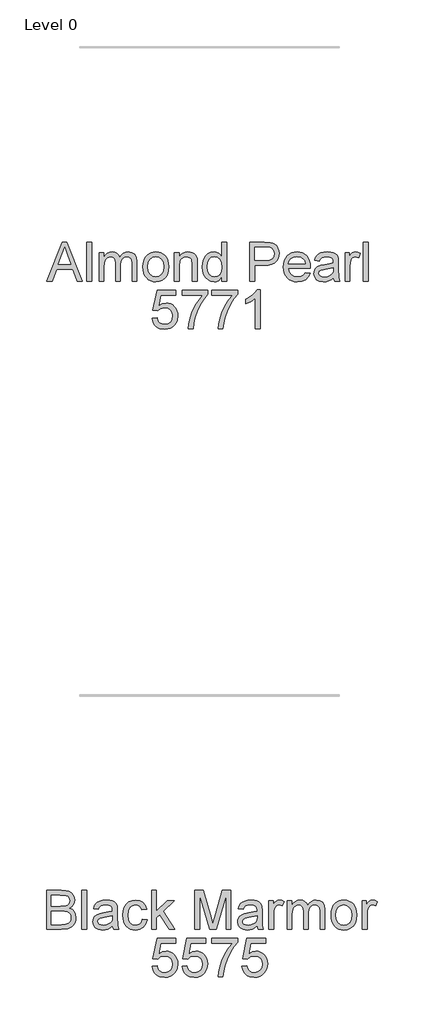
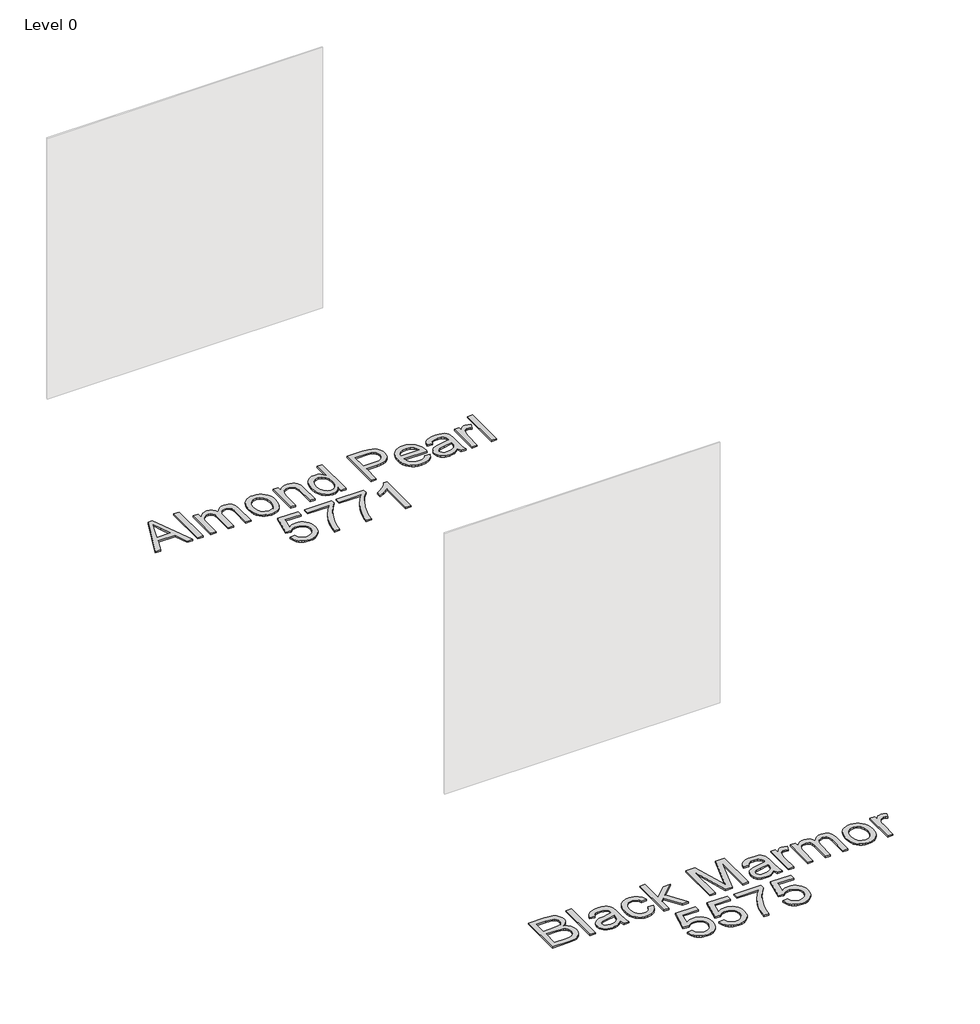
# One storey, part 5 of 8: 2 proxies.
"""IFC4 building model written with IfcOpenShell, lengths in millimetres."""

from ifc_helpers import new_model, si_unit, origin, origin_with_axes, place, context, project, spatial, polyline, outline, extrude, element, save

model = new_model("IFC4")

# Units and contexts
model_context = context("Model", 3, world=origin())
ifc_project = project(units=[si_unit("LENGTHUNIT", "METRE", prefix="MILLI")], contexts=[model_context])

# Site, building, storey
site = spatial("IfcSite", under=ifc_project)
building = spatial("IfcBuilding", under=site)
storey = spatial("IfcBuildingStorey", under=building, Name="Level 0", Elevation=0.0)

# Proxies
placement = place(None, origin())
element("IfcBuildingElementProxy", 1, Name="300mm Arial", ObjectType="300mm Arial", at=placement, inside=storey, context=model_context, shape_type="SweptSolid", body=[
    extrude(outline(polyline([(-705.3563891, -12002.860494), (-585.0589766, -11701.4915635), (-552.9796667, -11701.4915635), (-432.6822542, -12002.860494), (-472.4870861, -12002.860494), (-506.9944173, -11908.6827032), (-631.1178024, -11908.6827032), (-665.5515572, -12002.860494), (-705.3563891, -12002.860494)]), holes=[polyline([(-617.2854394, -11871.0115869), (-520.7532039, -11871.0115869), (-547.9028951, -11796.9201531), (-569.0193216, -11739.1626798), (-587.7813034, -11790.44543), (-617.2854394, -11871.0115869)])]), origin_with_axes(), (0.0, 0.0, 1.0), 10.0),
    extrude(outline(polyline([(-397.1448535, -12002.860494), (-397.1448535, -11701.4915635), (-359.4737372, -11701.4915635), (-359.4737372, -12002.860494), (-397.1448535, -12002.860494)])), origin_with_axes(), (0.0, 0.0, 1.0), 10.0),
    extrude(outline(polyline([(-302.9670627, -12002.860494), (-302.9670627, -11781.5426857), (-265.2959464, -11781.5426857), (-265.2959464, -11817.9630032), (-253.965181, -11801.2335695), (-239.397054, -11788.1277734), (-222.0882061, -11779.6572905), (-202.535278, -11776.8337961), (-181.5843984, -11779.7124728), (-164.7905853, -11788.3485026), (-152.2458093, -11802.1716686), (-144.0420408, -11820.6117536), (-130.3108453, -11801.4588972), (-114.6482694, -11787.7782855), (-97.054313, -11779.5699185), (-77.5289761, -11776.8337961), (-49.2112595, -11781.3863358), (-28.2695769, -11795.0439549), (-15.3293278, -11818.1745354), (-11.0159114, -11851.1459592), (-11.0159114, -12002.860494), (-48.6870277, -12002.860494), (-48.6870277, -11867.332767), (-52.1819066, -11835.8788564), (-57.0931313, -11827.2060383), (-64.8370473, -11820.3910244), (-74.7974523, -11815.9764404), (-86.358144, -11814.5049125), (-106.7663977, -11818.2757029), (-123.4038609, -11829.5880743), (-134.4679119, -11849.2145787), (-138.1559289, -11877.9277684), (-138.1559289, -12002.860494), (-175.8270452, -12002.860494), (-175.8270452, -11863.1389122), (-178.006746, -11841.8385447), (-184.5458485, -11826.6450183), (-196.0513579, -11817.5399389), (-213.1302795, -11814.5049125), (-227.6432242, -11816.5282634), (-241.0157347, -11822.5983163), (-252.0521946, -11832.5679184), (-259.5569873, -11846.2899168), (-263.8612066, -11865.3278101), (-265.2959464, -11891.2450966), (-265.2959464, -12002.860494), (-302.9670627, -12002.860494)])), origin_with_axes(), (0.0, 0.0, 1.0), 10.0),
    extrude(outline(polyline([(36.072984, -11892.2015898), (38.1101306, -11863.5389839), (44.2215702, -11838.8403064), (54.407303, -11818.1055575), (68.6673288, -11801.334737), (83.0239237, -11790.6155754), (98.8704406, -11782.9590314), (116.2068796, -11778.3651049), (135.0332407, -11776.8337961), (155.8162742, -11778.698498), (174.6081464, -11784.2926036), (191.4088572, -11793.6161129), (206.2184068, -11806.669026), (218.3056296, -11823.0098843), (226.9393602, -11842.1972296), (232.1195985, -11864.2310619), (233.8463446, -11889.1113811), (230.7929241, -11927.1687735), (221.6326624, -11956.1394806), (206.632274, -11977.8353213), (186.0584735, -11994.0681143), (161.6219119, -12004.1940662), (135.0332407, -12007.5693835), (113.9467046, -12005.7115794), (94.9800885, -12000.1381672), (78.1333924, -11990.8491468), (63.4066163, -11977.8445183), (51.4481522, -11961.3450108), (42.9063921, -11941.5713536), (37.781336, -11918.5235466), (36.072984, -11892.2015898)]), holes=[polyline([(73.7441003, -11892.1280134), (78.103502, -11926.2214773), (91.1817069, -11950.5108861), (110.8633936, -11965.0514219), (135.0332407, -11969.8982672), (159.0927232, -11965.0238308), (178.7376218, -11950.4005215), (191.8158267, -11925.789216), (196.1752283, -11890.950791), (191.7882355, -11857.8506085), (178.6272572, -11833.8922936), (158.9547675, -11819.3517577), (135.0332407, -11814.5049125), (110.8633936, -11819.3333636), (91.1817069, -11833.8187172), (78.103502, -11858.0529436), (73.7441003, -11892.1280134)])]), origin_with_axes(), (0.0, 0.0, 1.0), 10.0),
    extrude(outline(polyline([(276.2263505, -12002.860494), (276.2263505, -11781.5426857), (313.8974668, -11781.5426857), (313.8974668, -11812.4447733), (326.9848688, -11796.8649708), (342.702627, -11785.7365404), (361.0507415, -11779.0594822), (382.0292123, -11776.8337961), (400.598056, -11778.6272209), (417.6034012, -11784.0074951), (431.7852521, -11792.303234), (441.8836129, -11802.8430532), (453.1775902, -11830.5445674), (455.1641529, -11866.964885), (455.1641529, -12002.860494), (417.4930366, -12002.860494), (417.4930366, -11872.0416565), (413.1520291, -11838.7115477), (407.1463555, -11828.7879309), (397.8113499, -11821.0900002), (385.845988, -11816.1511844), (371.9492456, -11814.5049125), (349.885523, -11818.2021265), (331.077556, -11829.2937687), (323.5612669, -11838.3482643), (318.1924891, -11850.7228949), (313.8974668, -11885.4325611), (313.8974668, -12002.860494), (276.2263505, -12002.860494)])), origin_with_axes(), (0.0, 0.0, 1.0), 10.0),
    extrude(outline(polyline([(643.5197345, -12002.860494), (643.5197345, -11967.3230932), (632.2487498, -11984.9308452), (618.5957293, -11997.507811), (602.5606728, -12005.0539904), (584.1435804, -12007.5693835), (559.7897924, -12003.9273518), (537.4961434, -11993.0012565), (518.6237971, -11975.5544529), (504.5339167, -11952.350296), (495.7599311, -11924.3268851), (492.8352692, -11892.422319), (495.5300048, -11860.9132261), (503.6142117, -11832.4575538), (517.0786927, -11808.6739828), (535.9142509, -11791.181194), (558.6953434, -11780.4206456), (583.9964276, -11776.8337961), (602.4273156, -11779.3997731), (618.724488, -11787.0977038), (632.5384569, -11798.8975188), (643.5197345, -11813.7691485), (643.5197345, -11701.4915635), (681.1908508, -11701.4915635), (681.1908508, -12002.860494), (643.5197345, -12002.860494)]), holes=[polyline([(530.5063855, -11892.2751662), (534.7554226, -11926.350236), (547.5025337, -11950.5844625), (566.0253922, -11965.069816), (587.6016712, -11969.8982672), (609.1687532, -11965.2905452), (627.2225621, -11951.4673793), (639.4454414, -11928.1712519), (643.5197345, -11895.1446458), (639.371865, -11859.037028), (626.9282565, -11834.0026582), (608.4145951, -11819.3793489), (586.0565668, -11814.5049125), (564.2595586, -11819.1862108), (546.3988877, -11833.230106), (534.4795111, -11857.3539678), (530.5063855, -11892.2751662)])]), origin_with_axes(), (0.0, 0.0, 1.0), 10.0),
    extrude(outline(polyline([(860.1286532, -12002.860494), (860.1286532, -11701.4915635), (971.817627, -11701.4915635), (1016.8463832, -11704.3610431), (1036.9235431, -11709.7229232), (1053.4506417, -11718.4509235), (1066.7587729, -11730.9405172), (1077.1790304, -11747.5871775), (1083.9112709, -11767.222879), (1086.1553511, -11788.6795964), (1084.6401371, -11807.1794622), (1080.0944952, -11824.198603), (1072.5184253, -11839.7370188), (1061.9119276, -11853.7947095), (1047.3506984, -11865.4473717), (1027.9104342, -11873.7707019), (1003.591135, -11878.7647), (974.3928009, -11880.429366), (897.7997695, -11880.429366), (897.7997695, -12002.860494), (860.1286532, -12002.860494)]), holes=[polyline([(897.7997695, -11842.7582497), (976.6000929, -11842.7582497), (1010.0037781, -11839.3001589), (1032.0766978, -11828.9258867), (1044.3823505, -11812.2792264), (1048.4842347, -11790.0039716), (1046.0654106, -11773.0813998), (1038.8089383, -11758.8075784), (1027.6161286, -11748.0654241), (1013.3882924, -11741.7378538), (975.7171761, -11739.1626798), (897.7997695, -11739.1626798), (897.7997695, -11842.7582497)])]), origin_with_axes(), (0.0, 0.0, 1.0), 10.0),
    extrude(outline(polyline([(1288.1961428, -11936.9360404), (1325.1314951, -11941.64493), (1311.8233639, -11969.4752029), (1290.5873758, -11990.2789297), (1261.9017772, -12003.2467701), (1226.2448148, -12007.5693835), (1202.8705125, -12005.7046817), (1182.0437931, -12000.1105761), (1163.7646565, -11990.7870668), (1148.0331026, -11977.7341537), (1135.3825605, -11961.3151204), (1126.346459, -11941.8932503), (1120.9247981, -11919.4685435), (1119.1175778, -11894.0409998), (1120.9431922, -11867.7512327), (1126.4200354, -11844.5792656), (1135.5481074, -11824.5250983), (1148.3274082, -11807.5887309), (1164.0175753, -11794.133447), (1181.8782462, -11784.5225298), (1201.9094208, -11778.7559796), (1224.1110992, -11776.8337961), (1245.597707, -11778.751381), (1265.0287742, -11784.5041357), (1282.4043006, -11794.0920602), (1297.7242865, -11807.5151545), (1310.2299751, -11824.4147337), (1319.1626097, -11844.4321128), (1324.5221906, -11867.5672917), (1326.3087175, -11893.8202706), (1326.0879883, -11903.9738137), (1156.7886941, -11903.9738137), (1163.3094025, -11932.1719686), (1178.4569436, -11952.902119), (1200.3183312, -11965.6492302), (1226.9805788, -11969.8982672), (1247.0301475, -11967.9300985), (1263.9159311, -11962.0255925), (1277.6379295, -11951.8168672), (1288.1961428, -11936.9360404)]), holes=[polyline([(1156.7886941, -11866.3026974), (1288.6376012, -11866.3026974), (1283.5424356, -11846.4002814), (1273.5544394, -11832.1632482), (1251.5918843, -11818.9194964), (1223.9639464, -11814.5049125), (1198.5708917, -11818.0273826), (1177.5740269, -11828.5947929), (1162.9783087, -11845.0667092), (1156.7886941, -11866.3026974)])]), origin_with_axes(), (0.0, 0.0, 1.0), 10.0),
    extrude(outline(polyline([(1505.24652, -11974.6071568), (1487.2478933, -11990.0398064), (1468.7158378, -12000.1381672), (1449.2272891, -12005.7115794), (1428.359183, -12007.5693835), (1396.8776812, -12003.0996173), (1373.6551303, -11989.6903186), (1359.3353236, -11969.3280501), (1354.5620547, -11943.9993748), (1356.3646765, -11928.3827841), (1361.7725418, -11914.2009331), (1370.1142661, -11902.0608273), (1380.7184646, -11892.5694718), (1407.0956036, -11880.2086368), (1439.6899484, -11874.5432541), (1478.2071933, -11868.5835657), (1505.0257908, -11861.5938078), (1505.24652, -11853.2060983), (1502.6529519, -11836.3938912), (1494.8722477, -11825.3942195), (1477.4714293, -11817.2272392), (1453.2280058, -11814.5049125), (1430.7872041, -11816.3167313), (1415.1154311, -11821.7521878), (1404.4284592, -11831.8045633), (1396.9420606, -11847.4671392), (1359.2709443, -11842.7582497), (1365.8100467, -11822.156858), (1375.5681167, -11805.9700502), (1389.455662, -11793.590821), (1408.3831906, -11784.4121652), (1431.5321652, -11778.7283884), (1458.0840482, -11776.8337961), (1483.5506793, -11778.5076592), (1503.7382038, -11783.5292485), (1518.9593213, -11791.0800264), (1529.5267316, -11800.3414556), (1536.5348836, -11811.7917827), (1541.0782263, -11825.9092543), (1542.9176363, -11858.8714811), (1542.9176363, -11905.7396473), (1544.8306226, -11971.1858542), (1552.3354153, -12002.860494), (1514.664299, -12002.860494), (1505.24652, -11974.6071568)]), holes=[polyline([(1505.24652, -11899.2649241), (1444.4724144, -11910.8164188), (1412.0620106, -11916.9232599), (1397.383519, -11926.8560738), (1392.233171, -11941.3506244), (1395.0382713, -11952.5526311), (1403.4535719, -11961.7312869), (1417.295132, -11967.8565221), (1436.3790105, -11969.8982672), (1456.6125202, -11967.64499), (1474.4915852, -11960.8851583), (1488.9861358, -11950.9247533), (1499.0661024, -11939.069756), (1503.5358687, -11926.8560738), (1505.0257908, -11909.933502), (1505.24652, -11899.2649241)])]), origin_with_axes(), (0.0, 0.0, 1.0), 10.0),
    extrude(outline(polyline([(1594.7154212, -12002.860494), (1594.7154212, -11781.5426857), (1627.677648, -11781.5426857), (1627.677648, -11814.2841833), (1639.854542, -11795.3014723), (1651.0749428, -11784.1178596), (1662.3321319, -11778.654812), (1674.6193905, -11776.8337961), (1693.3813723, -11779.7400639), (1712.4376596, -11788.4588672), (1699.8560954, -11822.2304343), (1686.6123436, -11816.4362929), (1673.3685918, -11814.5049125), (1662.1205998, -11816.3627165), (1652.0682242, -11821.9361288), (1643.9472292, -11830.8020848), (1638.4933786, -11842.5375205), (1633.9132478, -11863.5803706), (1632.3865375, -11886.5362071), (1632.3865375, -12002.860494), (1594.7154212, -12002.860494)])), origin_with_axes(), (0.0, 0.0, 1.0), 10.0),
    extrude(outline(polyline([(1735.9821073, -12002.860494), (1735.9821073, -11701.4915635), (1773.6532236, -11701.4915635), (1773.6532236, -12002.860494), (1735.9821073, -12002.860494)])), origin_with_axes(), (0.0, 0.0, 1.0), 10.0),
    extrude(outline(polyline([(106.7063271, -12288.7338254), (144.3774434, -12284.0249358), (151.2936249, -12306.6404815), (163.3601544, -12322.8364863), (180.5218494, -12332.5761621), (202.7235278, -12335.8227207), (229.7260663, -12331.3069693), (249.959576, -12317.7597148), (262.5963226, -12296.7444558), (266.8085714, -12269.8246908), (262.863037, -12244.4776213), (251.0264338, -12225.0902402), (231.2067913, -12212.7845875), (203.312139, -12208.6827032), (185.0376009, -12210.3197781), (170.2395477, -12215.2310027), (149.0863329, -12232.2271509), (111.4152166, -12227.5182614), (144.3774434, -12072.1249066), (290.3530191, -12072.1249066), (290.3530191, -12109.7960229), (174.8380726, -12109.7960229), (158.7248412, -12192.790201), (185.6354092, -12176.4562404), (213.8335641, -12171.0115869), (232.1793793, -12172.6992456), (249.030674, -12177.7622215), (264.387448, -12186.2005148), (278.2497014, -12198.0141254), (289.7253204, -12212.4810848), (297.9221911, -12228.8794248), (302.8403136, -12247.2091452), (304.4796877, -12267.470246), (298.5751817, -12305.1413624), (291.1945492, -12321.9351754), (280.8616636, -12337.3678251), (265.2082847, -12353.1729553), (246.9429437, -12364.4623341), (226.0656404, -12371.2359613), (202.576375, -12373.4938371), (165.5766434, -12367.6904986), (149.8979726, -12360.4363255), (136.1000985, -12350.2804832), (124.619881, -12337.7288093), (115.8941799, -12323.2871418), (106.7063271, -12288.7338254)])), origin_with_axes(), (0.0, 0.0, 1.0), 10.0),
    extrude(outline(polyline([(337.4419145, -12109.7960229), (337.4419145, -12072.1249066), (535.2152751, -12072.1249066), (535.2152751, -12102.5855358), (507.0263172, -12138.2608923), (479.1132708, -12183.6299393), (454.4927683, -12234.5540045), (436.181442, -12286.8944154), (427.2051213, -12326.0554538), (422.2019262, -12368.7849475), (384.5308099, -12368.7849475), (388.605103, -12329.9550029), (399.5036071, -12283.8042066), (416.9320166, -12234.8850983), (440.5960259, -12187.7502177), (468.2239638, -12145.1402856), (497.5441588, -12109.7960229), (337.4419145, -12109.7960229)])), origin_with_axes(), (0.0, 0.0, 1.0), 10.0),
    extrude(outline(polyline([(568.1775018, -12109.7960229), (568.1775018, -12072.1249066), (765.9508625, -12072.1249066), (765.9508625, -12102.5855358), (737.7619046, -12138.2608923), (709.8488582, -12183.6299393), (685.2283557, -12234.5540045), (666.9170294, -12286.8944154), (657.9407087, -12326.0554538), (652.9375135, -12368.7849475), (615.2663972, -12368.7849475), (619.3406903, -12329.9550029), (630.2391944, -12283.8042066), (647.667604, -12234.8850983), (671.3316133, -12187.7502177), (698.9595511, -12145.1402856), (728.2797461, -12109.7960229), (568.1775018, -12109.7960229)])), origin_with_axes(), (0.0, 0.0, 1.0), 10.0),
    extrude(outline(polyline([(940.1797754, -12368.7849475), (902.5086591, -12368.7849475), (902.5086591, -12133.9290818), (866.8241055, -12159.3497277), (827.1664265, -12178.3692268), (827.1664265, -12142.7582497), (856.7533359, -12126.6634124), (882.3855139, -12107.5151545), (902.5914325, -12087.1528861), (915.8995637, -12067.4160171), (940.1797754, -12067.4160171), (940.1797754, -12368.7849475)])), origin_with_axes(), (0.0, 0.0, 1.0), 10.0),
])
element("IfcBuildingElementProxy", 2, Name="300mm Arial", ObjectType="300mm Arial", at=placement, inside=storey, context=model_context, shape_type="SweptSolid", body=[
    extrude(outline(polyline([(-707.931563, -17002.860494), (-707.931563, -16701.4915635), (-592.9316513, -16701.4915635), (-561.3029968, -16703.7080526), (-536.6089179, -16710.3575196), (-517.6813892, -16721.6055116), (-503.3523855, -16737.6175755), (-494.3300796, -16756.4531336), (-491.3226443, -16776.1716086), (-493.851833, -16794.317388), (-501.4393991, -16811.3779155), (-514.140525, -16826.3047274), (-532.0103929, -16838.0493601), (-510.6640402, -16849.1961846), (-494.8910996, -16866.1555446), (-485.1514238, -16887.8054), (-481.9048652, -16913.0237108), (-484.1213542, -16934.0389697), (-490.7708213, -16953.5275184), (-500.6944381, -16970.1006023), (-512.7333764, -16982.3694669), (-527.4762473, -16991.253817), (-545.5116622, -16997.6733578), (-593.8145681, -17002.860494), (-707.931563, -17002.860494)]), holes=[polyline([(-670.2604467, -16823.9226915), (-601.4665136, -16823.9226915), (-561.2937997, -16820.68533), (-547.2315105, -16815.1027207), (-537.1239527, -16806.7426024), (-531.0263086, -16795.7337336), (-528.9937606, -16782.2048733), (-530.8883528, -16769.071486), (-536.5721297, -16757.630356), (-545.7875736, -16748.7000206), (-558.2771674, -16743.0990172), (-606.690438, -16739.1626798), (-670.2604467, -16739.1626798), (-670.2604467, -16823.9226915)]), polyline([(-670.2604467, -16965.1893777), (-593.0052277, -16965.1893777), (-565.0461961, -16963.7178497), (-541.3913838, -16955.5140812), (-525.7196108, -16938.7754504), (-521.1118888, -16926.9480443), (-519.5759815, -16913.3915928), (-521.3786033, -16897.6462434), (-526.7864686, -16884.1081859), (-536.2318388, -16873.5223815), (-550.1469753, -16866.6337912), (-569.8562532, -16862.8538037), (-596.6840477, -16861.5938078), (-670.2604467, -16861.5938078), (-670.2604467, -16965.1893777)])]), origin_with_axes(), (0.0, 0.0, 1.0), 10.0),
    extrude(outline(polyline([(-434.8159698, -17002.860494), (-434.8159698, -16701.4915635), (-397.1448535, -16701.4915635), (-397.1448535, -17002.860494), (-434.8159698, -17002.860494)])), origin_with_axes(), (0.0, 0.0, 1.0), 10.0),
    extrude(outline(polyline([(-199.3714929, -16974.6071568), (-217.3701195, -16990.0398064), (-235.902175, -17000.1381672), (-255.3907237, -17005.7115794), (-276.2588299, -17007.5693835), (-307.7403316, -17003.0996173), (-330.9628826, -16989.6903186), (-345.2826892, -16969.3280501), (-350.0559581, -16943.9993748), (-348.2533363, -16928.3827841), (-342.845471, -16914.2009331), (-334.5037468, -16902.0608273), (-323.8995483, -16892.5694718), (-297.5224092, -16880.2086368), (-264.9280644, -16874.5432541), (-226.4108195, -16868.5835657), (-199.5922221, -16861.5938078), (-199.3714929, -16853.2060983), (-201.965061, -16836.3938912), (-209.7457652, -16825.3942195), (-227.1465835, -16817.2272392), (-251.390007, -16814.5049125), (-273.8308087, -16816.3167313), (-289.5025817, -16821.7521878), (-300.1895537, -16831.8045633), (-307.6759523, -16847.4671392), (-345.3470686, -16842.7582497), (-338.8079661, -16822.156858), (-329.0498962, -16805.9700502), (-315.1623509, -16793.590821), (-296.2348222, -16784.4121652), (-273.0858477, -16778.7283884), (-246.5339647, -16776.8337961), (-221.0673336, -16778.5076592), (-200.8798091, -16783.5292485), (-185.6586915, -16791.0800264), (-175.0912812, -16800.3414556), (-168.0831292, -16811.7917827), (-163.5397866, -16825.9092543), (-161.7003766, -16858.8714811), (-161.7003766, -16905.7396473), (-159.7873902, -16971.1858542), (-152.2825975, -17002.860494), (-189.9537138, -17002.860494), (-199.3714929, -16974.6071568)]), holes=[polyline([(-199.3714929, -16899.2649241), (-260.1455985, -16910.8164188), (-292.5560023, -16916.9232599), (-307.2344939, -16926.8560738), (-312.3848418, -16941.3506244), (-309.5797416, -16952.5526311), (-301.164441, -16961.7312869), (-287.3228809, -16967.8565221), (-268.2390024, -16969.8982672), (-248.0054927, -16967.64499), (-230.1264277, -16960.8851583), (-215.6318771, -16950.9247533), (-205.5519104, -16939.069756), (-201.0821442, -16926.8560738), (-199.5922221, -16909.933502), (-199.3714929, -16899.2649241)])]), origin_with_axes(), (0.0, 0.0, 1.0), 10.0),
    extrude(outline(polyline([(31.3640945, -16922.8093718), (69.0352108, -16927.5182614), (58.5321798, -16961.0231141), (38.7953108, -16986.3425924), (11.6824077, -17002.2626857), (-20.9487252, -17007.5693835), (-42.0766481, -17005.7184772), (-61.0202716, -17000.1657584), (-77.7795957, -16990.9112269), (-92.3546205, -16977.9548829), (-104.1521362, -16961.5404481), (-112.5789332, -16941.9116444), (-117.6350114, -16919.0684718), (-119.3203707, -16893.0109302), (-116.4416941, -16859.4876834), (-107.8056643, -16830.4342028), (-93.2743255, -16806.9725286), (-72.709722, -16790.2247008), (-48.1076135, -16780.1815223), (-21.46376, -16776.8337961), (10.3672296, -16781.4323211), (35.8154666, -16795.2278959), (54.0716106, -16817.4847566), (64.3263213, -16847.4671392), (26.6552049, -16852.1760288), (19.8217969, -16835.7409006), (9.1808102, -16823.9594797), (-4.679144, -16816.8685543), (-21.1694544, -16814.5049125), (-45.5140455, -16819.1586197), (-64.8370473, -16833.1197414), (-77.4462026, -16857.1424357), (-81.6492544, -16891.9808606), (-77.5381731, -16927.2883351), (-65.2049293, -16951.3938029), (-46.2314153, -16965.2721511), (-22.199524, -16969.8982672), (-2.6925812, -16967.0103936), (13.3010885, -16958.3467726), (24.9353566, -16943.6866751), (31.3640945, -16922.8093718)])), origin_with_axes(), (0.0, 0.0, 1.0), 10.0),
    extrude(outline(polyline([(101.9974376, -17002.860494), (101.9974376, -16701.4915635), (139.6685539, -16701.4915635), (139.6685539, -16863.4332178), (224.13426, -16781.5426857), (276.2263505, -16781.5426857), (190.7305748, -16864.4632874), (280.93524, -17002.860494), (236.9365534, -17002.860494), (163.7280363, -16890.6564855), (139.6685539, -16913.9802039), (139.6685539, -17002.860494), (101.9974376, -17002.860494)])), origin_with_axes(), (0.0, 0.0, 1.0), 10.0),
    extrude(outline(polyline([(436.3285948, -17002.860494), (436.3285948, -16701.4915635), (501.1494023, -16701.4915635), (562.8064247, -16913.9066275), (575.2408362, -16958.2731962), (588.7053172, -16910.2278076), (649.33227, -16701.4915635), (714.1530775, -16701.4915635), (714.1530775, -17002.860494), (676.4819612, -17002.860494), (676.4819612, -16739.1626798), (600.7718466, -17002.860494), (549.7098257, -17002.860494), (473.9997111, -16739.1626798), (473.9997111, -17002.860494), (436.3285948, -17002.860494)])), origin_with_axes(), (0.0, 0.0, 1.0), 10.0),
    extrude(outline(polyline([(916.6353277, -16974.6071568), (898.6367011, -16990.0398064), (880.1046456, -17000.1381672), (860.6160969, -17005.7115794), (839.7479907, -17007.5693835), (808.2664889, -17003.0996173), (785.043938, -16989.6903186), (770.7241313, -16969.3280501), (765.9508625, -16943.9993748), (767.7534842, -16928.3827841), (773.1613496, -16914.2009331), (781.5030738, -16902.0608273), (792.1072723, -16892.5694718), (818.4844114, -16880.2086368), (851.0787561, -16874.5432541), (889.596001, -16868.5835657), (916.4145985, -16861.5938078), (916.6353277, -16853.2060983), (914.0417596, -16836.3938912), (906.2610554, -16825.3942195), (888.860237, -16817.2272392), (864.6168136, -16814.5049125), (842.1760119, -16816.3167313), (826.5042389, -16821.7521878), (815.8172669, -16831.8045633), (808.3308683, -16847.4671392), (770.659752, -16842.7582497), (777.1988545, -16822.156858), (786.9569244, -16805.9700502), (800.8444697, -16793.590821), (819.7719983, -16784.4121652), (842.9209729, -16778.7283884), (869.4728559, -16776.8337961), (894.939487, -16778.5076592), (915.1270115, -16783.5292485), (930.348129, -16791.0800264), (940.9155394, -16800.3414556), (947.9236914, -16811.7917827), (952.467034, -16825.9092543), (954.306444, -16858.8714811), (954.306444, -16905.7396473), (956.2194304, -16971.1858542), (963.7242231, -17002.860494), (926.0531068, -17002.860494), (916.6353277, -16974.6071568)]), holes=[polyline([(916.6353277, -16899.2649241), (855.8612221, -16910.8164188), (823.4508183, -16916.9232599), (808.7723267, -16926.8560738), (803.6219788, -16941.3506244), (806.427079, -16952.5526311), (814.8423796, -16961.7312869), (828.6839397, -16967.8565221), (847.7678182, -16969.8982672), (868.0013279, -16967.64499), (885.8803929, -16960.8851583), (900.3749435, -16950.9247533), (910.4549102, -16939.069756), (914.9246764, -16926.8560738), (916.4145985, -16909.933502), (916.6353277, -16899.2649241)])]), origin_with_axes(), (0.0, 0.0, 1.0), 10.0),
    extrude(outline(polyline([(1006.1042289, -17002.860494), (1006.1042289, -16781.5426857), (1039.0664557, -16781.5426857), (1039.0664557, -16814.2841833), (1051.2433497, -16795.3014723), (1062.4637506, -16784.1178596), (1073.7209396, -16778.654812), (1086.0081983, -16776.8337961), (1104.77018, -16779.7400639), (1123.8264674, -16788.4588672), (1111.2449031, -16822.2304343), (1098.0011513, -16816.4362929), (1084.7573995, -16814.5049125), (1073.5094075, -16816.3627165), (1063.457032, -16821.9361288), (1055.3360369, -16830.8020848), (1049.8821863, -16842.5375205), (1045.3020555, -16863.5803706), (1043.7753452, -16886.5362071), (1043.7753452, -17002.860494), (1006.1042289, -17002.860494)])), origin_with_axes(), (0.0, 0.0, 1.0), 10.0),
    extrude(outline(polyline([(1147.3709151, -17002.860494), (1147.3709151, -16781.5426857), (1185.0420314, -16781.5426857), (1185.0420314, -16817.9630032), (1196.3727968, -16801.2335695), (1210.9409238, -16788.1277734), (1228.2497717, -16779.6572905), (1247.8026997, -16776.8337961), (1268.7535794, -16779.7124728), (1285.5473924, -16788.3485026), (1298.0921685, -16802.1716686), (1306.295937, -16820.6117536), (1320.0271324, -16801.4588972), (1335.6897084, -16787.7782855), (1353.2836648, -16779.5699185), (1372.8090017, -16776.8337961), (1401.1267183, -16781.3863358), (1422.0684009, -16795.0439549), (1435.00865, -16818.1745354), (1439.3220664, -16851.1459592), (1439.3220664, -17002.860494), (1401.6509501, -17002.860494), (1401.6509501, -16867.332767), (1398.1560712, -16835.8788564), (1393.2448465, -16827.2060383), (1385.5009305, -16820.3910244), (1375.5405255, -16815.9764404), (1363.9798338, -16814.5049125), (1343.5715801, -16818.2757029), (1326.9341169, -16829.5880743), (1315.8700659, -16849.2145787), (1312.1820489, -16877.9277684), (1312.1820489, -17002.860494), (1274.5109326, -17002.860494), (1274.5109326, -16863.1389122), (1272.3312318, -16841.8385447), (1265.7921293, -16826.6450183), (1254.2866199, -16817.5399389), (1237.2076983, -16814.5049125), (1222.6947536, -16816.5282634), (1209.322243, -16822.5983163), (1198.2857832, -16832.5679184), (1190.7809905, -16846.2899168), (1186.4767711, -16865.3278101), (1185.0420314, -16891.2450966), (1185.0420314, -17002.860494), (1147.3709151, -17002.860494)])), origin_with_axes(), (0.0, 0.0, 1.0), 10.0),
    extrude(outline(polyline([(1486.4109618, -16892.2015898), (1488.4481084, -16863.5389839), (1494.559548, -16838.8403064), (1504.7452807, -16818.1055575), (1519.0053066, -16801.334737), (1533.3619014, -16790.6155754), (1549.2084184, -16782.9590314), (1566.5448574, -16778.3651049), (1585.3712185, -16776.8337961), (1606.154252, -16778.698498), (1624.9461241, -16784.2926036), (1641.746835, -16793.6161129), (1656.5563846, -16806.669026), (1668.6436074, -16823.0098843), (1677.277338, -16842.1972296), (1682.4575763, -16864.2310619), (1684.1843224, -16889.1113811), (1681.1309019, -16927.1687735), (1671.9706402, -16956.1394806), (1656.9702518, -16977.8353213), (1636.3964512, -16994.0681143), (1611.9598897, -17004.1940662), (1585.3712185, -17007.5693835), (1564.2846824, -17005.7115794), (1545.3180663, -17000.1381672), (1528.4713702, -16990.8491468), (1513.744594, -16977.8445183), (1501.7861299, -16961.3450108), (1493.2443699, -16941.5713536), (1488.1193138, -16918.5235466), (1486.4109618, -16892.2015898)]), holes=[polyline([(1524.0820781, -16892.1280134), (1528.4414798, -16926.2214773), (1541.5196847, -16950.5108861), (1561.2013714, -16965.0514219), (1585.3712185, -16969.8982672), (1609.430701, -16965.0238308), (1629.0755995, -16950.4005215), (1642.1538045, -16925.789216), (1646.5132061, -16890.950791), (1642.1262133, -16857.8506085), (1628.9652349, -16833.8922936), (1609.2927452, -16819.3517577), (1585.3712185, -16814.5049125), (1561.2013714, -16819.3333636), (1541.5196847, -16833.8187172), (1528.4414798, -16858.0529436), (1524.0820781, -16892.1280134)])]), origin_with_axes(), (0.0, 0.0, 1.0), 10.0),
    extrude(outline(polyline([(1726.5643283, -17002.860494), (1726.5643283, -16781.5426857), (1759.526555, -16781.5426857), (1759.526555, -16814.2841833), (1771.7034491, -16795.3014723), (1782.9238499, -16784.1178596), (1794.181039, -16778.654812), (1806.4682976, -16776.8337961), (1825.2302794, -16779.7400639), (1844.2865667, -16788.4588672), (1831.7050025, -16822.2304343), (1818.4612507, -16816.4362929), (1805.2174988, -16814.5049125), (1793.9695068, -16816.3627165), (1783.9171313, -16821.9361288), (1775.7961363, -16830.8020848), (1770.3422857, -16842.5375205), (1765.7621548, -16863.5803706), (1764.2354446, -16886.5362071), (1764.2354446, -17002.860494), (1726.5643283, -17002.860494)])), origin_with_axes(), (0.0, 0.0, 1.0), 10.0),
    extrude(outline(polyline([(106.7063271, -17288.7338254), (144.3774434, -17284.0249358), (151.2936249, -17306.6404815), (163.3601544, -17322.8364863), (180.5218494, -17332.5761621), (202.7235278, -17335.8227207), (229.7260663, -17331.3069693), (249.959576, -17317.7597148), (262.5963226, -17296.7444558), (266.8085714, -17269.8246908), (262.863037, -17244.4776213), (251.0264338, -17225.0902402), (231.2067913, -17212.7845875), (203.312139, -17208.6827032), (185.0376009, -17210.3197781), (170.2395477, -17215.2310027), (149.0863329, -17232.2271509), (111.4152166, -17227.5182614), (144.3774434, -17072.1249066), (290.3530191, -17072.1249066), (290.3530191, -17109.7960229), (174.8380726, -17109.7960229), (158.7248412, -17192.790201), (185.6354092, -17176.4562404), (213.8335641, -17171.0115869), (232.1793793, -17172.6992456), (249.030674, -17177.7622215), (264.387448, -17186.2005148), (278.2497014, -17198.0141254), (289.7253204, -17212.4810848), (297.9221911, -17228.8794248), (302.8403136, -17247.2091452), (304.4796877, -17267.470246), (298.5751817, -17305.1413624), (291.1945492, -17321.9351754), (280.8616636, -17337.3678251), (265.2082847, -17353.1729553), (246.9429437, -17364.4623341), (226.0656404, -17371.2359613), (202.576375, -17373.4938371), (165.5766434, -17367.6904986), (149.8979726, -17360.4363255), (136.1000985, -17350.2804832), (124.619881, -17337.7288093), (115.8941799, -17323.2871418), (106.7063271, -17288.7338254)])), origin_with_axes(), (0.0, 0.0, 1.0), 10.0),
    extrude(outline(polyline([(337.4419145, -17288.7338254), (375.1130308, -17284.0249358), (382.0292123, -17306.6404815), (394.0957417, -17322.8364863), (411.2574368, -17332.5761621), (433.4591152, -17335.8227207), (460.4616537, -17331.3069693), (480.6951634, -17317.7597148), (493.3319099, -17296.7444558), (497.5441588, -17269.8246908), (493.5986244, -17244.4776213), (481.7620212, -17225.0902402), (461.9423787, -17212.7845875), (434.0477264, -17208.6827032), (415.7731883, -17210.3197781), (400.975135, -17215.2310027), (379.8219203, -17232.2271509), (342.150804, -17227.5182614), (375.1130308, -17072.1249066), (521.0886065, -17072.1249066), (521.0886065, -17109.7960229), (405.57366, -17109.7960229), (389.4604286, -17192.790201), (416.3709965, -17176.4562404), (444.5691515, -17171.0115869), (462.9149667, -17172.6992456), (479.7662614, -17177.7622215), (495.1230354, -17186.2005148), (508.9852888, -17198.0141254), (520.4609078, -17212.4810848), (528.6577785, -17228.8794248), (533.5759009, -17247.2091452), (535.2152751, -17267.470246), (529.3107691, -17305.1413624), (521.9301365, -17321.9351754), (511.597251, -17337.3678251), (495.9438721, -17353.1729553), (477.678531, -17364.4623341), (456.8012278, -17371.2359613), (433.3119624, -17373.4938371), (396.3122307, -17367.6904986), (380.63356, -17360.4363255), (366.8356859, -17350.2804832), (355.3554684, -17337.7288093), (346.6297673, -17323.2871418), (337.4419145, -17288.7338254)])), origin_with_axes(), (0.0, 0.0, 1.0), 10.0),
    extrude(outline(polyline([(568.1775018, -17109.7960229), (568.1775018, -17072.1249066), (765.9508625, -17072.1249066), (765.9508625, -17102.5855358), (737.7619046, -17138.2608923), (709.8488582, -17183.6299393), (685.2283557, -17234.5540045), (666.9170294, -17286.8944154), (657.9407087, -17326.0554538), (652.9375135, -17368.7849475), (615.2663972, -17368.7849475), (619.3406903, -17329.9550029), (630.2391944, -17283.8042066), (647.667604, -17234.8850983), (671.3316133, -17187.7502177), (698.9595511, -17145.1402856), (728.2797461, -17109.7960229), (568.1775018, -17109.7960229)])), origin_with_axes(), (0.0, 0.0, 1.0), 10.0),
    extrude(outline(polyline([(798.9130892, -17288.7338254), (836.5842055, -17284.0249358), (843.500387, -17306.6404815), (855.5669165, -17322.8364863), (872.7286116, -17332.5761621), (894.93029, -17335.8227207), (921.9328284, -17331.3069693), (942.1663381, -17317.7597148), (954.8030847, -17296.7444558), (959.0153335, -17269.8246908), (955.0697991, -17244.4776213), (943.2331959, -17225.0902402), (923.4135534, -17212.7845875), (895.5189012, -17208.6827032), (877.244363, -17210.3197781), (862.4463098, -17215.2310027), (841.2930951, -17232.2271509), (803.6219788, -17227.5182614), (836.5842055, -17072.1249066), (982.5597812, -17072.1249066), (982.5597812, -17109.7960229), (867.0448347, -17109.7960229), (850.9316033, -17192.790201), (877.8421713, -17176.4562404), (906.0403262, -17171.0115869), (924.3861415, -17172.6992456), (941.2374361, -17177.7622215), (956.5942101, -17186.2005148), (970.4564636, -17198.0141254), (981.9320826, -17212.4810848), (990.1289533, -17228.8794248), (995.0470757, -17247.2091452), (996.6864498, -17267.470246), (990.7819438, -17305.1413624), (983.4013113, -17321.9351754), (973.0684257, -17337.3678251), (957.4150468, -17353.1729553), (939.1497058, -17364.4623341), (918.2724026, -17371.2359613), (894.7831372, -17373.4938371), (857.7834055, -17367.6904986), (842.1047347, -17360.4363255), (828.3068606, -17350.2804832), (816.8266431, -17337.7288093), (808.1009421, -17323.2871418), (798.9130892, -17288.7338254)])), origin_with_axes(), (0.0, 0.0, 1.0), 10.0),
])

save(model, "model.ifc")
